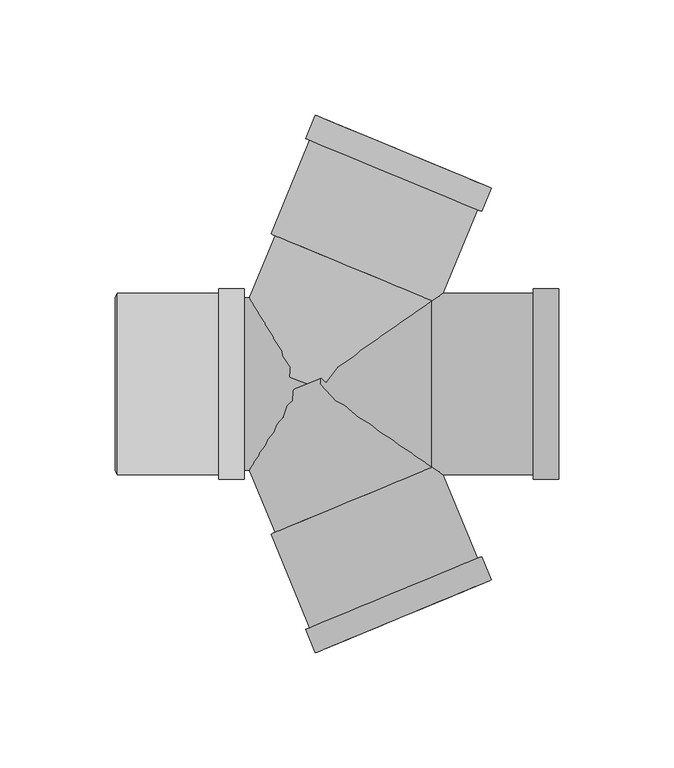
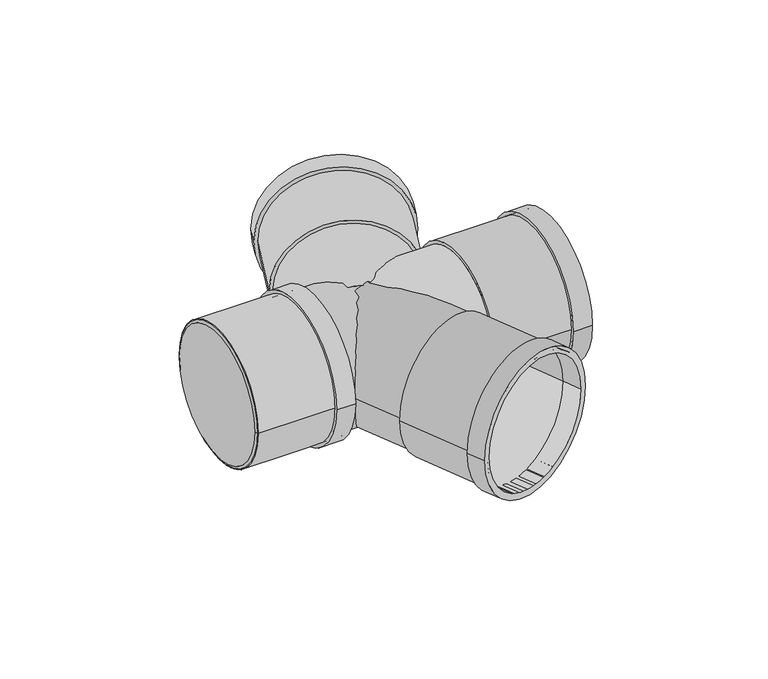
"""IFC4 building model written with IfcOpenShell, lengths in millimetres: pipe fitting geometry, Superdrain HTDA-Double Branch : Superdrain HTDA-Double Branch."""

from ifc_helpers import new_model, si_unit, point, frame, origin, origin_2d, place, context, project, spatial, polyline, circle_curve, trimmed, segment, composite_curve, outline, extrude, source, transform, mapped, element, save
from ifc_brep_helpers import plane_surface, revolved_surface, advanced_brep


def pipe_fitting_ac66f9c2(model_context):
    return source(origin(), model_context, "Body", "SolidModel", [
        extrude(outline(composite_curve([segment(trimmed(circle_curve(origin_2d(), 39.375), [point((39.375, 0.0))], [point((-39.375, 0.0))], False, "CARTESIAN"), True, "CONTINUOUS"), segment(trimmed(circle_curve(origin_2d(), 39.375), [point((-39.375, 0.0))], [point((39.375, 0.0))], False, "CARTESIAN"), True, "CONTINUOUS")], self_intersect=False), holes=[composite_curve([segment(trimmed(circle_curve(origin_2d(), 37.5), [point((37.5, 0.0))], [point((-37.5, 0.0))], True, "CARTESIAN"), True, "CONTINUOUS"), segment(trimmed(circle_curve(origin_2d(), 37.5), [point((-37.5, 0.0))], [point((37.5, 0.0))], True, "CARTESIAN"), True, "CONTINUOUS")], self_intersect=False)]), frame((-82.3, 0.0, 0.0), z_axis=(1.0, 0.0, 0.0), x_axis=(0.0, 1.0, 0.0)), (0.0, 0.0, 1.0), 55.0),
        extrude(outline(composite_curve([segment(trimmed(circle_curve(origin_2d(), 41.34375), [point((41.34375, 0.0))], [point((-41.34375, 0.0))], False, "CARTESIAN"), True, "CONTINUOUS"), segment(trimmed(circle_curve(origin_2d(), 41.34375), [point((-41.34375, 0.0))], [point((41.34375, 0.0))], False, "CARTESIAN"), True, "CONTINUOUS")], self_intersect=False), holes=[composite_curve([segment(trimmed(circle_curve(origin_2d(), 37.5), [point((37.5, 0.0))], [point((-37.5, 0.0))], True, "CARTESIAN"), True, "CONTINUOUS"), segment(trimmed(circle_curve(origin_2d(), 37.5), [point((-37.5, 0.0))], [point((37.5, 0.0))], True, "CARTESIAN"), True, "CONTINUOUS")], self_intersect=False)]), frame((-38.3, 0.0, 0.0), z_axis=(1.0, 0.0, 0.0), x_axis=(0.0, 1.0, 0.0)), (0.0, 0.0, 1.0), 11.0),
        advanced_brep(
        [(-83.3, 37.5, 0.0), (-83.3, -37.5, 0.0), (-82.3, 39.375, 0.0), (-82.3, -39.375, 0.0)],
        [
            (0, 1, circle_curve(frame((-83.3, 0.0, 0.0), z_axis=(-1.0, 0.0, 0.0), x_axis=(0.0, 1.0, 0.0)), 37.5)),
            (1, 0, circle_curve(frame((-83.3, 0.0, 0.0), z_axis=(-1.0, 0.0, 0.0), x_axis=(0.0, -1.0, 0.0)), 37.5)),
            (2, 3, circle_curve(frame((-82.3, 0.0, 0.0), z_axis=(1.0, 0.0, 0.0), x_axis=(0.0, -1.0, 0.0)), 39.375)),
            (3, 2, circle_curve(frame((-82.3, 0.0, 0.0), z_axis=(1.0, 0.0, 0.0), x_axis=(0.0, 1.0, 0.0)), 39.375)),
            (3, 1),
            (0, 2),
        ],
        [
            plane_surface(frame((-83.3, 0.0, 0.0), z_axis=(-1.0, 0.0, 0.0), x_axis=(0.0, 0.0, -1.0))),
            plane_surface(frame((-82.3, 0.0, 0.0), z_axis=(1.0, 0.0, 0.0), x_axis=(0.0, 0.0, -1.0))),
            revolved_surface(polyline([(-83.3, 37.5, 0.0), (-82.3, 39.375, 0.0)]), (-103.3, 0.0, 0.0), (1.0, 0.0, 0.0)),
            revolved_surface(polyline([(-83.3, -37.5, 0.0), (-82.3, -39.375, 0.0)]), (-103.3, 0.0, 0.0), (1.0, 0.0, 0.0)),
        ],
        [
            (0, [[1, 2]]),
            (1, [[3, 4]]),
            (2, [[-4, 5, -1, 6]]),
            (3, [[-3, -6, -2, -5]]),
        ],
    ),
        extrude(outline(composite_curve([segment(trimmed(circle_curve(origin_2d(), 41.34375), [point((0.0, -41.34375))], [point((0.0, 41.34375))], False, "CARTESIAN"), True, "CONTINUOUS"), segment(trimmed(circle_curve(origin_2d(), 41.34375), [point((0.0, 41.34375))], [point((0.0, -41.34375))], False, "CARTESIAN"), True, "CONTINUOUS")], self_intersect=False), holes=[composite_curve([segment(trimmed(circle_curve(origin_2d(), 37.5), [point((0.0, -37.5))], [point((0.0, 37.5000001))], True, "CARTESIAN"), True, "CONTINUOUS"), segment(trimmed(circle_curve(origin_2d(), 37.5), [point((0.0, 37.5000001))], [point((0.0, -37.5))], True, "CARTESIAN"), True, "CONTINUOUS")], self_intersect=False)]), frame((41.7890308, -100.887645, 0.0), z_axis=(-0.3826834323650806, 0.9238795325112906, 0.0), x_axis=(0.0, 0.0, 1.0)), (0.0, 0.0, 1.0), 11.0),
        extrude(outline(composite_curve([segment(trimmed(circle_curve(origin_2d(), 39.375), [point((0.0, -39.375))], [point((0.0, 39.375))], False, "CARTESIAN"), True, "CONTINUOUS"), segment(trimmed(circle_curve(origin_2d(), 39.375), [point((0.0, 39.375))], [point((0.0, -39.375))], False, "CARTESIAN"), True, "CONTINUOUS")], self_intersect=False), holes=[composite_curve([segment(trimmed(circle_curve(origin_2d(), 37.5), [point((0.0, -37.5))], [point((0.0, 37.5000001))], True, "CARTESIAN"), True, "CONTINUOUS"), segment(trimmed(circle_curve(origin_2d(), 37.5), [point((0.0, 37.5000001))], [point((0.0, -37.5))], True, "CARTESIAN"), True, "CONTINUOUS")], self_intersect=False)]), frame((41.7890308, -100.887645, 0.0), z_axis=(-0.38268343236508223, 0.92387953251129, 0.0), x_axis=(0.0, 0.0, 1.0)), (0.0, 0.0, 1.0), 55.0),
        extrude(outline(composite_curve([segment(trimmed(circle_curve(origin_2d(), 37.5), [point((0.0, -37.4999999))], [point((0.0, 37.5000001))], False, "CARTESIAN"), True, "CONTINUOUS"), segment(trimmed(circle_curve(origin_2d(), 37.5), [point((0.0, 37.5000001))], [point((0.0, -37.4999999))], False, "CARTESIAN"), True, "CONTINUOUS")], self_intersect=False)), frame((20.741442, -50.0742707, 0.0), z_axis=(-0.38268343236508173, 0.9238795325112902, 0.0), x_axis=(0.0, 0.0, 1.0)), (0.0, 0.0, 1.0), 54.2),
        extrude(outline(composite_curve([segment(trimmed(circle_curve(origin_2d(), 41.34375), [point((0.0, 41.34375))], [point((0.0, -41.3437501))], False, "CARTESIAN"), True, "CONTINUOUS"), segment(trimmed(circle_curve(origin_2d(), 41.34375), [point((0.0, -41.3437501))], [point((0.0, 41.34375))], False, "CARTESIAN"), True, "CONTINUOUS")], self_intersect=False), holes=[composite_curve([segment(trimmed(circle_curve(origin_2d(), 37.5), [point((0.0, 37.4999999))], [point((0.0, -37.5))], True, "CARTESIAN"), True, "CONTINUOUS"), segment(trimmed(circle_curve(origin_2d(), 37.5), [point((0.0, -37.5))], [point((0.0, 37.4999999))], True, "CARTESIAN"), True, "CONTINUOUS")], self_intersect=False)]), frame((37.5795131, 90.7249701, 0.0), z_axis=(0.38268343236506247, 0.9238795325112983, 0.0), x_axis=(0.0, 0.0, 1.0)), (0.0, 0.0, 1.0), 11.0),
        extrude(outline(composite_curve([segment(trimmed(circle_curve(origin_2d(), 39.375), [point((0.0, 39.375))], [point((0.0, -39.375))], False, "CARTESIAN"), True, "CONTINUOUS"), segment(trimmed(circle_curve(origin_2d(), 39.375), [point((0.0, -39.375))], [point((0.0, 39.375))], False, "CARTESIAN"), True, "CONTINUOUS")], self_intersect=False), holes=[composite_curve([segment(trimmed(circle_curve(origin_2d(), 37.5), [point((0.0, 37.5000001))], [point((0.0, -37.4999999))], True, "CARTESIAN"), True, "CONTINUOUS"), segment(trimmed(circle_curve(origin_2d(), 37.5), [point((0.0, -37.4999999))], [point((0.0, 37.5000001))], True, "CARTESIAN"), True, "CONTINUOUS")], self_intersect=False)]), frame((20.741442, 50.0742707, 0.0), z_axis=(0.3826834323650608, 0.9238795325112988, 0.0), x_axis=(0.0, 0.0, 1.0)), (0.0, 0.0, 1.0), 55.0),
        extrude(outline(composite_curve([segment(trimmed(circle_curve(origin_2d(), 37.5), [point((0.0, 37.5))], [point((0.0, -37.5))], False, "CARTESIAN"), True, "CONTINUOUS"), segment(trimmed(circle_curve(origin_2d(), 37.5), [point((0.0, -37.5))], [point((0.0, 37.5))], False, "CARTESIAN"), True, "CONTINUOUS")], self_intersect=False)), frame((0.0, 0.0, 0.0), z_axis=(0.38268343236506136, 0.9238795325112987, 0.0), x_axis=(0.0, 0.0, 1.0)), (0.0, 0.0, 1.0), 54.2),
        extrude(outline(composite_curve([segment(trimmed(circle_curve(origin_2d(), 41.34375), [point((-41.34375, 0.0))], [point((41.34375, 0.0))], False, "CARTESIAN"), True, "CONTINUOUS"), segment(trimmed(circle_curve(origin_2d(), 41.34375), [point((41.34375, 0.0))], [point((-41.34375, 0.0))], False, "CARTESIAN"), True, "CONTINUOUS")], self_intersect=False), holes=[composite_curve([segment(trimmed(circle_curve(origin_2d(), 39.375), [point((-39.375, 0.0))], [point((39.375, 0.0))], True, "CARTESIAN"), True, "CONTINUOUS"), segment(trimmed(circle_curve(origin_2d(), 39.375), [point((39.375, 0.0))], [point((-39.375, 0.0))], True, "CARTESIAN"), True, "CONTINUOUS")], self_intersect=False)]), frame((98.2, 0.0, 0.0), z_axis=(1.0, 0.0, 0.0), x_axis=(0.0, 1.0, 0.0)), (0.0, 0.0, 1.0), 11.0),
        extrude(outline(composite_curve([segment(trimmed(circle_curve(origin_2d(), 39.375), [point((-39.375, 0.0))], [point((39.375, 0.0))], False, "CARTESIAN"), True, "CONTINUOUS"), segment(trimmed(circle_curve(origin_2d(), 39.375), [point((39.375, 0.0))], [point((-39.375, 0.0))], False, "CARTESIAN"), True, "CONTINUOUS")], self_intersect=False), holes=[composite_curve([segment(trimmed(circle_curve(origin_2d(), 37.5), [point((-37.5, 0.0))], [point((37.5, 0.0))], True, "CARTESIAN"), True, "CONTINUOUS"), segment(trimmed(circle_curve(origin_2d(), 37.5), [point((37.5, 0.0))], [point((-37.5, 0.0))], True, "CARTESIAN"), True, "CONTINUOUS")], self_intersect=False)]), frame((54.2, 0.0, 0.0), z_axis=(1.0, 0.0, 0.0), x_axis=(0.0, 1.0, 0.0)), (0.0, 0.0, 1.0), 55.0),
        extrude(outline(composite_curve([segment(trimmed(circle_curve(origin_2d(), 37.5), [point((-37.5, 0.0))], [point((37.5, 0.0))], False, "CARTESIAN"), True, "CONTINUOUS"), segment(trimmed(circle_curve(origin_2d(), 37.5), [point((37.5, 0.0))], [point((-37.5, 0.0))], False, "CARTESIAN"), True, "CONTINUOUS")], self_intersect=False)), frame((0.0, 0.0, 0.0), z_axis=(1.0, 0.0, 0.0), x_axis=(0.0, 1.0, 0.0)), (0.0, 0.0, 1.0), 54.2),
        extrude(outline(composite_curve([segment(trimmed(circle_curve(origin_2d(), 37.5), [point((-37.5, 0.0))], [point((37.5, 0.0))], False, "CARTESIAN"), True, "CONTINUOUS"), segment(trimmed(circle_curve(origin_2d(), 37.5), [point((37.5, 0.0))], [point((-37.5, 0.0))], False, "CARTESIAN"), True, "CONTINUOUS")], self_intersect=False)), frame((-82.3, 0.0, 0.0), z_axis=(1.0, 0.0, 0.0), x_axis=(0.0, 1.0, 0.0)), (0.0, 0.0, 1.0), 82.3),
    ])


if __name__ == "__main__":
    model = new_model("IFC4")
    model_context = context("Model", 3, world=origin())
    ifc_project = project(units=[si_unit("LENGTHUNIT", "METRE", prefix="MILLI")], contexts=[model_context])
    site = spatial("IfcSite", under=ifc_project)
    building = spatial("IfcBuilding", under=site)
    placement = place(None, origin())
    pipe_fitting_shape = pipe_fitting_ac66f9c2(model_context)
    element("IfcPipeFitting", 1, ObjectType="Superdrain HTDA-Double Branch : Superdrain HTDA-Double Branch", at=placement, inside=building, context=model_context, shape_type="MappedRepresentation", body=[
        mapped(pipe_fitting_shape, transform((0.0, 0.0, 0.0), x_axis=(1.0, 0.0, 0.0), y_axis=(0.0, 1.0, 0.0), z_axis=(0.0, 0.0, 1.0))),
    ])
    save(model, "model.ifc")
